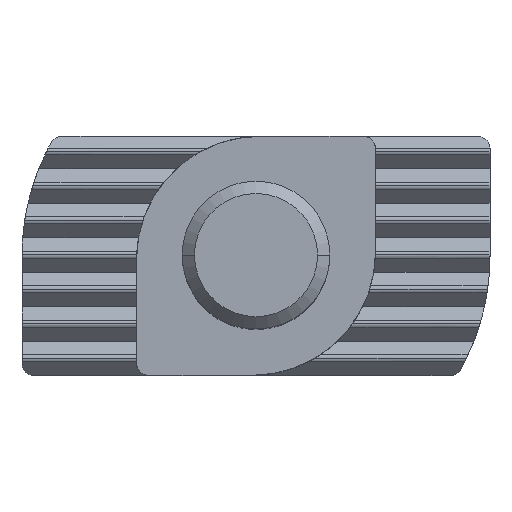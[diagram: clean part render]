
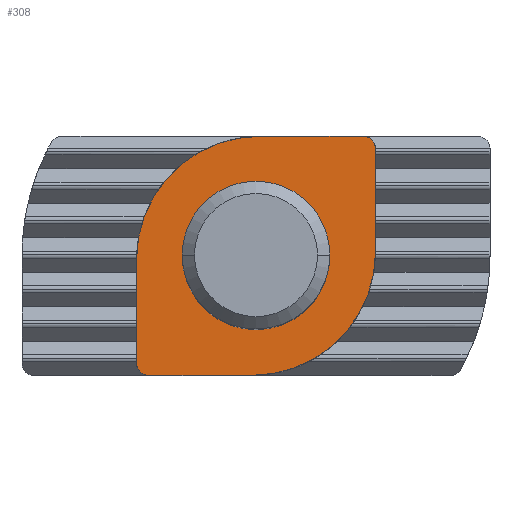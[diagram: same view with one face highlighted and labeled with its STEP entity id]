
A CAD part, top view. The second image highlights one B-rep face of the part: STEP entity #308.
In plain terms, the highlighted planar face has unit normal (0, 0, 1).
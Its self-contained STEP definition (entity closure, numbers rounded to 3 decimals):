
#308=ADVANCED_FACE('NONE',(#613,#614),#615,.F.);
#613=FACE_OUTER_BOUND('',#913,.T.);
#614=FACE_BOUND('',#914,.T.);
#615=PLANE('',#915);
#913=EDGE_LOOP('',(#1796,#1797,#1798,#1799,#1800,#1801,#1802,#1803));
#914=EDGE_LOOP('',(#1804,#1805));
#915=AXIS2_PLACEMENT_3D('',#1806,#1807,#1808);
#1796=ORIENTED_EDGE('',*,*,#2122,.T.);
#1797=ORIENTED_EDGE('',*,*,#2214,.T.);
#1798=ORIENTED_EDGE('',*,*,#2135,.T.);
#1799=ORIENTED_EDGE('',*,*,#2031,.T.);
#1800=ORIENTED_EDGE('',*,*,#2215,.T.);
#1801=ORIENTED_EDGE('',*,*,#2197,.T.);
#1802=ORIENTED_EDGE('',*,*,#1859,.T.);
#1803=ORIENTED_EDGE('',*,*,#2110,.T.);
#1804=ORIENTED_EDGE('',*,*,#1911,.F.);
#1805=ORIENTED_EDGE('',*,*,#2026,.F.);
#1806=CARTESIAN_POINT('',(-0.15,0.15,8.8));
#1807=DIRECTION('',(-0.0,-0.0,-1.0));
#1808=DIRECTION('',(0.0,-1.0,0.0));
#1859=EDGE_CURVE('NONE',#2230,#2228,#2231,.T.);
#1911=EDGE_CURVE('NONE',#2321,#2319,#2323,.T.);
#2026=EDGE_CURVE('NONE',#2319,#2321,#2510,.T.);
#2031=EDGE_CURVE('NONE',#2518,#2516,#2519,.T.);
#2110=EDGE_CURVE('NONE',#2228,#2623,#2625,.T.);
#2122=EDGE_CURVE('NONE',#2623,#2637,#2639,.T.);
#2135=EDGE_CURVE('NONE',#2656,#2518,#2657,.T.);
#2197=EDGE_CURVE('NONE',#2737,#2230,#2738,.T.);
#2214=EDGE_CURVE('NONE',#2637,#2656,#2755,.T.);
#2215=EDGE_CURVE('NONE',#2516,#2737,#2756,.T.);
#2228=VERTEX_POINT('NONE',#2776);
#2230=VERTEX_POINT('NONE',#2779);
#2231=LINE('',#2780,#2781);
#2319=VERTEX_POINT('NONE',#2945);
#2321=VERTEX_POINT('NONE',#2948);
#2323=CIRCLE('',#2951,3.);
#2510=CIRCLE('',#3371,3.);
#2516=VERTEX_POINT('NONE',#3392);
#2518=VERTEX_POINT('NONE',#3395);
#2519=CIRCLE('',#3396,5.0);
#2623=VERTEX_POINT('NONE',#3724);
#2625=CIRCLE('',#3727,5.0);
#2637=VERTEX_POINT('NONE',#3753);
#2639=LINE('',#3756,#3757);
#2656=VERTEX_POINT('NONE',#3791);
#2657=LINE('',#3792,#3793);
#2737=VERTEX_POINT('NONE',#3961);
#2738=CIRCLE('',#3962,0.5);
#2755=CIRCLE('',#3982,0.5);
#2756=LINE('',#3983,#3984);
#2776=CARTESIAN_POINT('',(-0.15,-4.85,8.8));
#2779=CARTESIAN_POINT('',(-4.35,-4.85,8.8));
#2780=CARTESIAN_POINT('',(-0.15,-4.85,8.8));
#2781=VECTOR('',#3992,1000.0);
#2945=CARTESIAN_POINT('',(3.,0.,8.8));
#2948=CARTESIAN_POINT('',(-3.,0.0,8.8));
#2951=AXIS2_PLACEMENT_3D('',#4039,#4040,#4041);
#3371=AXIS2_PLACEMENT_3D('',#4139,#4140,#4141);
#3392=CARTESIAN_POINT('',(-4.85,-0.15,8.8));
#3395=CARTESIAN_POINT('',(0.15,4.85,8.8));
#3396=AXIS2_PLACEMENT_3D('',#4143,#4144,#4145);
#3724=CARTESIAN_POINT('',(4.85,0.15,8.8));
#3727=AXIS2_PLACEMENT_3D('',#4194,#4195,#4196);
#3753=CARTESIAN_POINT('',(4.85,4.35,8.8));
#3756=CARTESIAN_POINT('',(4.85,4.85,8.8));
#3757=VECTOR('',#4205,1000.0);
#3791=CARTESIAN_POINT('',(4.35,4.85,8.8));
#3792=CARTESIAN_POINT('',(0.15,4.85,8.8));
#3793=VECTOR('',#4213,1000.0);
#3961=CARTESIAN_POINT('',(-4.85,-4.35,8.8));
#3962=AXIS2_PLACEMENT_3D('',#4263,#4264,#4265);
#3982=AXIS2_PLACEMENT_3D('',#4275,#4276,#4277);
#3983=CARTESIAN_POINT('',(-4.85,-0.15,8.8));
#3984=VECTOR('',#4278,1000.0);
#3992=DIRECTION('',(1.0,0.,-0.0));
#4039=CARTESIAN_POINT('',(0.0,0.0,8.8));
#4040=DIRECTION('',(0.0,0.0,1.0));
#4041=DIRECTION('',(-1.0,0.0,0.0));
#4139=CARTESIAN_POINT('',(0.0,0.0,8.8));
#4140=DIRECTION('',(0.0,0.0,1.0));
#4141=DIRECTION('',(-1.0,0.0,0.0));
#4143=CARTESIAN_POINT('',(0.15,-0.15,8.8));
#4144=DIRECTION('',(0.0,0.0,1.0));
#4145=DIRECTION('',(1.0,0.0,0.0));
#4194=CARTESIAN_POINT('',(-0.15,0.15,8.8));
#4195=DIRECTION('',(0.0,0.0,1.0));
#4196=DIRECTION('',(-1.0,0.0,0.0));
#4205=DIRECTION('',(-0.0,1.0,-0.0));
#4213=DIRECTION('',(-1.0,-0.0,-0.0));
#4263=CARTESIAN_POINT('',(-4.35,-4.35,8.8));
#4264=DIRECTION('',(0.0,0.0,1.0));
#4265=DIRECTION('',(-1.0,0.0,0.0));
#4275=CARTESIAN_POINT('',(4.35,4.35,8.8));
#4276=DIRECTION('',(0.0,0.0,1.0));
#4277=DIRECTION('',(-1.0,0.0,0.0));
#4278=DIRECTION('',(0.,-1.0,0.0));
